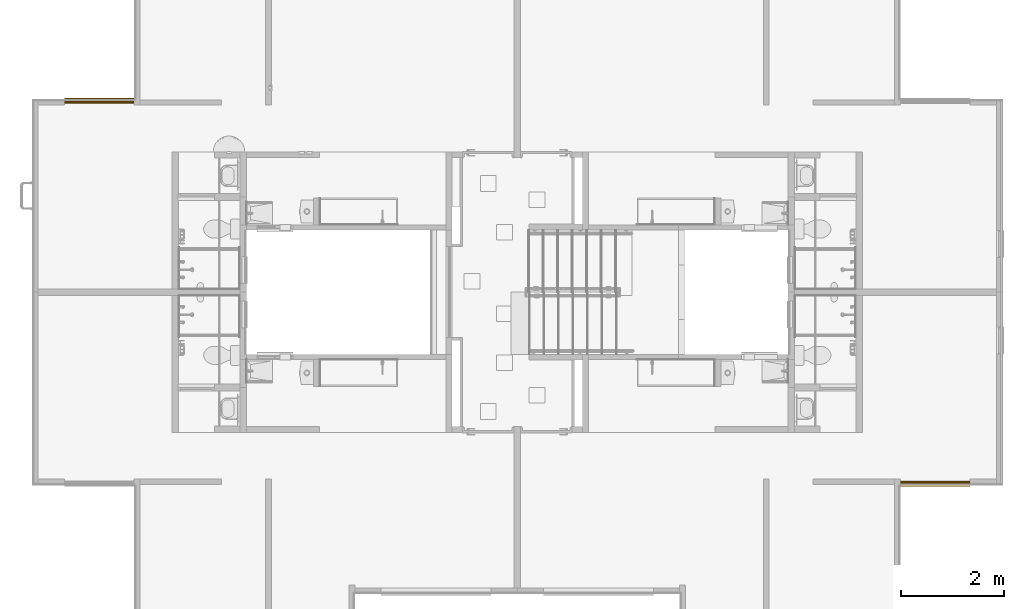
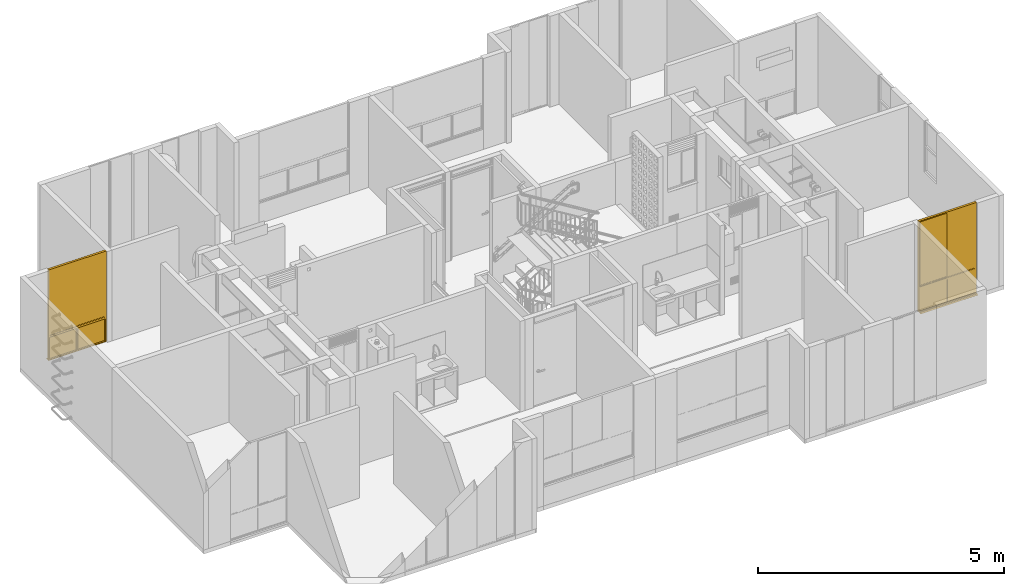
# One storey, part 37 of 51: 2 windows.
"""IFC4 building model written with IfcOpenShell, lengths in metres."""

from ifc_helpers import new_model, entity, si_unit, converted_unit, derived_unit, direction, frame, origin, place, context, subcontext, project, spatial, polygons, source, transform, mapped, material, constituent, constituent_set, type_object, type_shapes, element, save


model = new_model("IFC4")

# Units and contexts
model_context = context("Model", 3, precision=1e-05, world=origin(), true_north=direction((6.123031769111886e-17, 1.0)))
body_context = subcontext(model_context, "Body", "Model", "MODEL_VIEW")
ifc_project = project(units=[si_unit("LENGTHUNIT", "METRE"), si_unit("AREAUNIT", "SQUARE_METRE"), si_unit("VOLUMEUNIT", "CUBIC_METRE"), converted_unit("PLANEANGLEUNIT", "DEGREE", entity("IfcRatioMeasure", 0.017453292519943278), si_unit("PLANEANGLEUNIT", "RADIAN"), dimensions=[0, 0, 0, 0, 0, 0, 0]), si_unit("MASSUNIT", "GRAM", prefix="KILO"), derived_unit("MASSDENSITYUNIT", [(si_unit("MASSUNIT", "GRAM", prefix="KILO"), 1), (si_unit("LENGTHUNIT", "METRE"), -3)]), derived_unit("IONCONCENTRATIONUNIT", [(si_unit("MASSUNIT", "GRAM", prefix="KILO"), 1), (si_unit("LENGTHUNIT", "METRE"), -3)]), derived_unit("MOMENTOFINERTIAUNIT", [(si_unit("LENGTHUNIT", "METRE"), 4)]), si_unit("TIMEUNIT", "SECOND"), si_unit("FREQUENCYUNIT", "HERTZ"), si_unit("THERMODYNAMICTEMPERATUREUNIT", "DEGREE_CELSIUS"), derived_unit("THERMALTRANSMITTANCEUNIT", [(si_unit("MASSUNIT", "GRAM", prefix="KILO"), 1), (si_unit("THERMODYNAMICTEMPERATUREUNIT", "KELVIN"), -1), (si_unit("TIMEUNIT", "SECOND"), -3)]), derived_unit("THERMALCONDUCTANCEUNIT", [(si_unit("MASSUNIT", "GRAM", prefix="KILO"), 1), (si_unit("THERMODYNAMICTEMPERATUREUNIT", "KELVIN"), -1), (si_unit("TIMEUNIT", "SECOND"), -3), (si_unit("LENGTHUNIT", "METRE"), 1)]), derived_unit("VOLUMETRICFLOWRATEUNIT", [(si_unit("LENGTHUNIT", "METRE"), 3), (si_unit("TIMEUNIT", "SECOND"), -1)]), derived_unit("MASSFLOWRATEUNIT", [(si_unit("MASSUNIT", "GRAM", prefix="KILO"), 1), (si_unit("TIMEUNIT", "SECOND"), -1)]), derived_unit("ROTATIONALFREQUENCYUNIT", [(si_unit("TIMEUNIT", "SECOND"), -1)]), si_unit("ELECTRICCURRENTUNIT", "AMPERE"), si_unit("ELECTRICVOLTAGEUNIT", "VOLT"), si_unit("POWERUNIT", "WATT"), si_unit("FORCEUNIT", "NEWTON", prefix="KILO"), si_unit("ILLUMINANCEUNIT", "LUX"), si_unit("LUMINOUSFLUXUNIT", "LUMEN"), si_unit("LUMINOUSINTENSITYUNIT", "CANDELA"), derived_unit("USERDEFINED", [(si_unit("MASSUNIT", "GRAM", prefix="KILO"), -1), (si_unit("LENGTHUNIT", "METRE"), -2), (si_unit("TIMEUNIT", "SECOND"), 3), (si_unit("LUMINOUSFLUXUNIT", "LUMEN"), 1)]), derived_unit("USERDEFINED", [(si_unit("MASSUNIT", "GRAM", prefix="KILO"), 1), (si_unit("TIMEUNIT", "SECOND"), -3), (si_unit("LENGTHUNIT", "METRE"), 3), (si_unit("ELECTRICCURRENTUNIT", "AMPERE"), -2)]), derived_unit("SOUNDPOWERUNIT", [(si_unit("MASSUNIT", "GRAM", prefix="KILO"), 1), (si_unit("TIMEUNIT", "SECOND"), -3), (si_unit("LENGTHUNIT", "METRE"), 2)]), derived_unit("SOUNDPRESSUREUNIT", [(si_unit("MASSUNIT", "GRAM", prefix="KILO"), 1), (si_unit("LENGTHUNIT", "METRE"), -1), (si_unit("TIMEUNIT", "SECOND"), -2)]), derived_unit("LINEARVELOCITYUNIT", [(si_unit("LENGTHUNIT", "METRE"), 1), (si_unit("TIMEUNIT", "SECOND"), -1)]), si_unit("PRESSUREUNIT", "PASCAL"), derived_unit("USERDEFINED", [(si_unit("MASSUNIT", "GRAM", prefix="KILO"), 1), (si_unit("LENGTHUNIT", "METRE"), -2), (si_unit("TIMEUNIT", "SECOND"), -2)]), derived_unit("LINEARFORCEUNIT", [(si_unit("MASSUNIT", "GRAM", prefix="KILO"), 1), (si_unit("TIMEUNIT", "SECOND"), -2)]), derived_unit("PLANARFORCEUNIT", [(si_unit("MASSUNIT", "GRAM", prefix="KILO"), 1), (si_unit("LENGTHUNIT", "METRE"), -1), (si_unit("TIMEUNIT", "SECOND"), -2)]), derived_unit("SPECIFICHEATCAPACITYUNIT", [(si_unit("THERMODYNAMICTEMPERATUREUNIT", "KELVIN"), -1), (si_unit("LENGTHUNIT", "METRE"), 2), (si_unit("TIMEUNIT", "SECOND"), -2)]), derived_unit("HEATINGVALUEUNIT", [(si_unit("LENGTHUNIT", "METRE"), 2), (si_unit("TIMEUNIT", "SECOND"), -2)]), derived_unit("VAPORPERMEABILITYUNIT", [(si_unit("LENGTHUNIT", "METRE"), -1), (si_unit("TIMEUNIT", "SECOND"), 1)]), derived_unit("DYNAMICVISCOSITYUNIT", [(si_unit("MASSUNIT", "GRAM", prefix="KILO"), 1), (si_unit("TIMEUNIT", "SECOND"), -1), (si_unit("LENGTHUNIT", "METRE"), -1)]), derived_unit("THERMALEXPANSIONCOEFFICIENTUNIT", [(si_unit("THERMODYNAMICTEMPERATUREUNIT", "KELVIN"), -1)]), derived_unit("MODULUSOFELASTICITYUNIT", [(si_unit("MASSUNIT", "GRAM", prefix="KILO"), 1), (si_unit("LENGTHUNIT", "METRE"), -1), (si_unit("TIMEUNIT", "SECOND"), -2)]), derived_unit("ISOTHERMALMOISTURECAPACITYUNIT", [(si_unit("LENGTHUNIT", "METRE"), 3), (si_unit("MASSUNIT", "GRAM", prefix="KILO"), -1)]), derived_unit("MOISTUREDIFFUSIVITYUNIT", [(si_unit("TIMEUNIT", "SECOND"), -1), (si_unit("LENGTHUNIT", "METRE"), 2)])], contexts=[model_context])

# Site, building, storey
site_placement = place(None, origin())
site = spatial("IfcSite", under=ifc_project, at=site_placement, Name="Default", CompositionType="ELEMENT")
building_placement = place(site_placement, origin())
building = spatial("IfcBuilding", under=site, at=building_placement, CompositionType="ELEMENT")
storey_placement = place(building_placement, frame((0.0, 0.0, 2.350000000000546)))
storey = spatial("IfcBuildingStorey", under=building, at=storey_placement, Name="Nivel 2", CompositionType="ELEMENT", Elevation=2.350000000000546)

# Windows
ifc_material_1 = material(Name="Vidrio", Category="Materials")
ifc_constituent_1 = constituent(ifc_material_1, Name="Vidrio", Category="Materials")
ifc_material_2 = material(Name="Aluminio", Category="Materials")
ifc_constituent_2 = constituent(ifc_material_2, Name="Aluminio", Category="Materials")
ifc_material_3 = material(Name="<Unnamed>")
ifc_constituent_3 = constituent(ifc_material_3, Name="<Unnamed>")
ifc_constituent_set_1 = constituent_set(constituents=[ifc_constituent_1, ifc_constituent_2, ifc_constituent_3])
ifc_constituent_4 = constituent(ifc_material_1, Name="Vidrio", Category="Materials")
ifc_constituent_5 = constituent(ifc_material_2, Name="Aluminio", Category="Materials")
ifc_constituent_6 = constituent(ifc_material_3, Name="<Unnamed>")
ifc_constituent_set_2 = constituent_set(constituents=[ifc_constituent_4, ifc_constituent_5, ifc_constituent_6])
window_type = type_object("IfcWindowType", Name="B2020 - Ventana corrediza - Aluminio + Vidrio:B2020 - 1.35m x 2.25m - Ventana corrediza 2C - Aluminio + Vidrio", PartitioningType="NOTDEFINED", PredefinedType="WINDOW", material=ifc_constituent_set_2)
shared_shape = source(origin(), body_context, "Body", "Tessellation", [
    polygons([(0.020000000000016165, 0.044249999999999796, 2.2300000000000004), (0.020000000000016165, 0.044249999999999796, 0.6174999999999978), (0.6750000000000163, 0.04424999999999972, 0.6174999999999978), (0.6750000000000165, 0.04424999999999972, 2.2300000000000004), (0.6750000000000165, 0.04824999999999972, 2.2300000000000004), (0.020000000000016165, 0.04824999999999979, 2.2300000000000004), (0.6750000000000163, 0.04824999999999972, 0.6174999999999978), (0.020000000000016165, 0.04824999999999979, 0.6174999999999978)], [[[1, 2, 3, 4]], [[4, 5, 6, 1]], [[3, 7, 5, 4]], [[1, 6, 8, 2]], [[6, 5, 7, 8]], [[2, 8, 7, 3]]], closed=True),
    polygons([(1.3300000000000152, 0.04424999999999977, 2.2300000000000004), (0.6700000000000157, 0.044249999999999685, 2.2300000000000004), (0.6700000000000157, 0.044249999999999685, 0.6174999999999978), (1.3300000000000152, 0.04424999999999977, 0.6174999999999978), (1.3300000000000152, 0.048249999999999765, 0.6174999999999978), (1.3300000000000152, 0.048249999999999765, 2.2300000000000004), (0.6700000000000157, 0.04824999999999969, 2.2300000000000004), (0.6700000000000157, 0.04824999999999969, 0.6174999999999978)], [[[1, 2, 3, 4]], [[4, 5, 6, 1]], [[2, 7, 8, 3]], [[1, 6, 7, 2]], [[6, 5, 8, 7]], [[3, 8, 5, 4]]], closed=True),
    polygons([(0.6700000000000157, 0.048249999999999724, 0.6174999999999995), (0.6700000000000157, 0.048249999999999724, 2.230000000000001), (0.6700000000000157, 0.044249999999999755, 2.230000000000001), (0.6700000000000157, 0.044249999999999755, 0.6174999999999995), (1.3300000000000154, 0.04424999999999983, 2.230000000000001), (1.3300000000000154, 0.04424999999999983, 0.6174999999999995), (0.685000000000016, 0.044249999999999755, 2.2150000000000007), (0.685000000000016, 0.044249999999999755, 0.6324999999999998), (1.315000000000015, 0.04424999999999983, 0.6324999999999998), (1.315000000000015, 0.04424999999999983, 2.2150000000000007), (1.3300000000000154, 0.0482499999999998, 2.230000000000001), (1.3300000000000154, 0.0482499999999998, 0.6174999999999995), (0.685000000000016, 0.048249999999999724, 0.6324999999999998), (0.685000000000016, 0.048249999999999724, 2.2150000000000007), (1.315000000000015, 0.04824999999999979, 2.2150000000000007), (1.315000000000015, 0.04824999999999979, 0.6324999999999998), (0.685000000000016, 0.05299999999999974, 0.6324999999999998), (0.685000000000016, 0.05299999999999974, 2.2150000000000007), (1.315000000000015, 0.05299999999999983, 2.2150000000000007), (1.315000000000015, 0.05299999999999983, 0.6324999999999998), (0.6650000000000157, 0.05299999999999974, 0.6124999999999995), (0.6650000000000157, 0.05299999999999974, 2.2350000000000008), (1.3350000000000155, 0.05299999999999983, 2.2350000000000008), (1.3350000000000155, 0.05299999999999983, 0.6124999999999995), (0.6650000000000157, 0.03949999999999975, 0.6124999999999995), (0.6650000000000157, 0.03949999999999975, 2.2350000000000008), (1.3350000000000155, 0.03949999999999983, 2.2350000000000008), (1.3350000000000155, 0.03949999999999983, 0.6124999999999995), (0.685000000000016, 0.03949999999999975, 0.6324999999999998), (0.685000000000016, 0.03949999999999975, 2.2150000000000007), (1.315000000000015, 0.03949999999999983, 2.2150000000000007), (1.315000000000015, 0.03949999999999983, 0.6324999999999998)], [[[1, 2, 3, 4]], [[4, 3, 5, 6], [7, 8, 9, 10]], [[2, 11, 5, 3]], [[2, 1, 12, 11], [13, 14, 15, 16]], [[17, 18, 14, 13]], [[18, 19, 15, 14]], [[21, 22, 23, 24], [18, 17, 20, 19]], [[25, 26, 22, 21]], [[26, 27, 23, 22]], [[26, 25, 28, 27], [29, 30, 31, 32]], [[8, 7, 30, 29]], [[7, 10, 31, 30]], [[11, 12, 6, 5]], [[19, 20, 16, 15]], [[27, 28, 24, 23]], [[10, 9, 32, 31]], [[12, 1, 4, 6]], [[20, 17, 13, 16]], [[28, 25, 21, 24]], [[9, 8, 29, 32]]], closed=True),
    polygons([(0.6800000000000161, 0.06674999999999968, 2.229999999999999), (0.02000000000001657, 0.06674999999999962, 2.229999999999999), (0.02000000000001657, 0.06674999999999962, 0.6174999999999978), (0.6800000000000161, 0.06674999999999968, 0.6174999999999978), (0.6800000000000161, 0.07074999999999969, 0.6174999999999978), (0.6800000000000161, 0.07074999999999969, 2.229999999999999), (0.02000000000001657, 0.0707499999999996, 2.229999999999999), (0.02000000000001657, 0.0707499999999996, 0.6174999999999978)], [[[1, 2, 3, 4]], [[4, 5, 6, 1]], [[2, 7, 8, 3]], [[1, 6, 7, 2]], [[6, 5, 8, 7]], [[3, 8, 5, 4]]], closed=True),
    polygons([(0.020000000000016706, 0.07074999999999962, 0.6175), (0.020000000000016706, 0.07074999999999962, 2.2299999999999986), (0.020000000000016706, 0.06674999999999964, 2.2299999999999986), (0.020000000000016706, 0.06674999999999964, 0.6175), (0.6800000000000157, 0.06674999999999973, 2.2299999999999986), (0.6800000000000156, 0.06674999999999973, 0.6175000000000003), (0.035000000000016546, 0.06674999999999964, 2.214999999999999), (0.035000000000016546, 0.06674999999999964, 0.6324999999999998), (0.6650000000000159, 0.06674999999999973, 0.6324999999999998), (0.6650000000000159, 0.06674999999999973, 2.214999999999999), (0.6800000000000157, 0.0707499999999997, 2.2299999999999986), (0.6800000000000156, 0.0707499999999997, 0.6175), (0.035000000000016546, 0.07074999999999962, 0.6324999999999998), (0.035000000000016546, 0.07074999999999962, 2.214999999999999), (0.6650000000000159, 0.0707499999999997, 2.214999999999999), (0.6650000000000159, 0.0707499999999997, 0.6324999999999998), (0.035000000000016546, 0.07549999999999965, 0.6324999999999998), (0.035000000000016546, 0.07549999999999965, 2.214999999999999), (0.6650000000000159, 0.07549999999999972, 2.214999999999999), (0.6650000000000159, 0.07549999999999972, 0.6324999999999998), (0.015000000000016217, 0.07549999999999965, 0.6124999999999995), (0.015000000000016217, 0.07549999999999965, 2.2349999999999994), (0.6850000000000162, 0.07549999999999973, 2.2349999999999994), (0.685000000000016, 0.07549999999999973, 0.6124999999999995), (0.015000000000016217, 0.06199999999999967, 0.6124999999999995), (0.015000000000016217, 0.06199999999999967, 2.2349999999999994), (0.6850000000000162, 0.06199999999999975, 2.2349999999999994), (0.685000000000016, 0.06199999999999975, 0.6124999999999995), (0.035000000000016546, 0.06199999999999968, 0.6324999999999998), (0.035000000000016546, 0.06199999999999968, 2.214999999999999), (0.6650000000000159, 0.06199999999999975, 2.214999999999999), (0.6650000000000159, 0.06199999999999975, 0.6324999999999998)], [[[1, 2, 3, 4]], [[4, 3, 5, 6], [7, 8, 9, 10]], [[2, 11, 5, 3]], [[2, 1, 12, 11], [13, 14, 15, 16]], [[17, 18, 14, 13]], [[18, 19, 15, 14]], [[21, 22, 23, 24], [18, 17, 20, 19]], [[25, 26, 22, 21]], [[26, 27, 23, 22]], [[26, 25, 28, 27], [29, 30, 31, 32]], [[8, 7, 30, 29]], [[7, 10, 31, 30]], [[11, 12, 6, 5]], [[19, 20, 16, 15]], [[27, 28, 24, 23]], [[10, 9, 32, 31]], [[12, 1, 4, 6]], [[20, 17, 13, 16]], [[28, 25, 21, 24]], [[9, 8, 29, 32]]], closed=True),
    polygons([(0.025000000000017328, 0.037499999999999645, 2.224999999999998), (1.3250000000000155, 0.037499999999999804, 2.2249999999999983), (1.3250000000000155, 0.03249999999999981, 2.2249999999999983), (0.025000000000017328, 0.03249999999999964, 2.224999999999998), (1.325000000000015, 0.037499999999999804, 0.6200000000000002), (1.3250000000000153, 0.03249999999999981, 0.6200000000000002), (0.025000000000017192, 0.03249999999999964, 0.6200000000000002), (1.3500000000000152, 0.03249999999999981, 0.595), (1.3500000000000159, 0.03249999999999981, 2.2499999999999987), (1.6919798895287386e-14, 0.03249999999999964, 2.2499999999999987), (1.6919798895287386e-14, 0.03249999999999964, 0.595), (0.025000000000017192, 0.037499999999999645, 0.6200000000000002), (1.345000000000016, 0.037499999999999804, 2.2449999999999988), (1.3450000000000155, 0.037499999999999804, 0.5999999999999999), (0.005000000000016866, 0.037499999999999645, 0.5999999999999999), (0.005000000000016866, 0.037499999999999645, 2.2449999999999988), (0.005000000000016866, 0.054999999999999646, 2.2449999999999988), (1.345000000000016, 0.05499999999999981, 2.2449999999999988), (1.3450000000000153, 0.05499999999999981, 0.5999999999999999), (0.005000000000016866, 0.054999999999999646, 0.5999999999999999), (1.3250000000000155, 0.054999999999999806, 2.2249999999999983), (1.3250000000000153, 0.054999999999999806, 0.6200000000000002), (0.025000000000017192, 0.05499999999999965, 0.6200000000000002), (0.025000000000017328, 0.05499999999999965, 2.2249999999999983), (0.025000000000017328, 0.05999999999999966, 2.224999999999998), (1.3250000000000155, 0.05999999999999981, 2.2249999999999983), (1.325000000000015, 0.05999999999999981, 0.6200000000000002), (0.025000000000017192, 0.05999999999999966, 0.6200000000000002), (1.345000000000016, 0.05999999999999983, 2.2449999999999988), (1.3450000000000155, 0.05999999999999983, 0.5999999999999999), (0.005000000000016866, 0.05999999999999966, 0.5999999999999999), (0.005000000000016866, 0.05999999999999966, 2.2449999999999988), (0.005000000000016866, 0.07749999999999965, 2.2449999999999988), (1.345000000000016, 0.07749999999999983, 2.2449999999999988), (1.3450000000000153, 0.07749999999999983, 0.5999999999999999), (0.005000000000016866, 0.07749999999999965, 0.5999999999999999), (1.3250000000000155, 0.07749999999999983, 2.2249999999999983), (1.3250000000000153, 0.07749999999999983, 0.6200000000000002), (0.025000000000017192, 0.07749999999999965, 0.6200000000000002), (0.025000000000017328, 0.07749999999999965, 2.2249999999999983), (0.025000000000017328, 0.08249999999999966, 2.224999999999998), (1.3250000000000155, 0.08249999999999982, 2.2249999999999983), (1.325000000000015, 0.08249999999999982, 0.6200000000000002), (0.025000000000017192, 0.08249999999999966, 0.6200000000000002), (1.3500000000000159, 0.08249999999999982, 2.2499999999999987), (1.3500000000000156, 0.08249999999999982, 0.595), (1.6919798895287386e-14, 0.08249999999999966, 0.595), (1.6919798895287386e-14, 0.08249999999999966, 2.2499999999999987)], [[[1, 2, 3, 4]], [[2, 5, 6, 3]], [[8, 9, 10, 11], [3, 6, 7, 4]], [[13, 14, 15, 16], [5, 2, 1, 12]], [[17, 18, 13, 16]], [[18, 19, 14, 13]], [[19, 18, 17, 20], [21, 22, 23, 24]], [[25, 26, 21, 24]], [[26, 27, 22, 21]], [[29, 30, 31, 32], [27, 26, 25, 28]], [[33, 34, 29, 32]], [[34, 35, 30, 29]], [[35, 34, 33, 36], [37, 38, 39, 40]], [[41, 42, 37, 40]], [[42, 43, 38, 37]], [[45, 46, 47, 48], [43, 42, 41, 44]], [[10, 9, 45, 48]], [[9, 8, 46, 45]], [[12, 1, 4, 7]], [[20, 17, 16, 15]], [[28, 25, 24, 23]], [[36, 33, 32, 31]], [[44, 41, 40, 39]], [[11, 10, 48, 47]], [[5, 12, 7, 6]], [[19, 20, 15, 14]], [[27, 28, 23, 22]], [[35, 36, 31, 30]], [[43, 44, 39, 38]], [[8, 11, 47, 46]]], closed=True),
    polygons([(1.330000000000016, 0.08250000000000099, 0.5749999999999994), (1.330000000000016, 0.08250000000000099, 0.020000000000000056), (1.330000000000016, 0.0324999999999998, 0.020000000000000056), (1.330000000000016, 0.03249999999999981, 0.5749999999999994), (0.6850000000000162, 0.08250000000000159, 0.01999999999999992), (0.6850000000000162, 0.03250000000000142, 0.01999999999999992), (1.3500000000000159, 0.03250000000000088, 0.5949999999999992), (1.3500000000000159, 0.03250000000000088, 2.707167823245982e-16), (1.3500000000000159, 0.08249999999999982, 2.707167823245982e-16), (1.3500000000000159, 0.08249999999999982, 0.5949999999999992), (1.624300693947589e-14, 0.03250000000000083, 2.707167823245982e-16), (1.624300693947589e-14, 0.08249999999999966, 2.707167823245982e-16), (0.020000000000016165, 0.08250000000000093, 0.020000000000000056), (0.020000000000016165, 0.08250000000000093, 0.5749999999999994), (0.02000000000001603, 0.03249999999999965, 0.5749999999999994), (0.02000000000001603, 0.03249999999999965, 0.020000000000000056), (1.624300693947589e-14, 0.03250000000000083, 0.5949999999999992), (1.624300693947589e-14, 0.08249999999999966, 0.5949999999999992), (0.6650000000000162, 0.08250000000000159, 0.5749999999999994), (0.6650000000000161, 0.03250000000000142, 0.5749999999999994), (0.6650000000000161, 0.08250000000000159, 0.01999999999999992), (0.6650000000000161, 0.03250000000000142, 0.01999999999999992), (0.6850000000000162, 0.03250000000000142, 0.5749999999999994), (0.6850000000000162, 0.08250000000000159, 0.5749999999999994)], [[[1, 2, 3, 4]], [[2, 5, 6, 3]], [[7, 8, 9, 10]], [[8, 11, 12, 9]], [[13, 14, 15, 16]], [[11, 17, 18, 12]], [[14, 19, 20, 15]], [[10, 18, 17, 7]], [[21, 22, 20, 19]], [[7, 17, 11, 8], [22, 16, 15, 20], [23, 4, 3, 6]], [[24, 23, 6, 5]], [[9, 12, 18, 10], [5, 2, 1, 24], [19, 14, 13, 21]], [[4, 23, 24, 1]], [[16, 22, 21, 13]]], closed=True),
    polygons([(0.6650000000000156, 0.07213901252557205, 0.019999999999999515), (0.6650000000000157, 0.06813901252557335, 0.019999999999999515), (0.020000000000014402, 0.06813901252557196, 0.019999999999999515), (0.020000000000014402, 0.07213901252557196, 0.019999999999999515), (0.6650000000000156, 0.07213901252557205, 0.5849999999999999), (0.020000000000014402, 0.07213901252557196, 0.5849999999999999), (0.020000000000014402, 0.06813901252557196, 0.5849999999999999), (0.6650000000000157, 0.06813901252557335, 0.5849999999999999)], [[[1, 2, 3, 4]], [[5, 1, 4, 6]], [[6, 4, 3, 7]], [[7, 3, 2, 8]], [[8, 2, 1, 5]], [[5, 6, 7, 8]]], closed=True),
    polygons([(0.6850000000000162, 0.07213901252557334, 0.019999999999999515), (1.3300000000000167, 0.07213901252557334, 0.019999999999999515), (1.3300000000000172, 0.06813901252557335, 0.019999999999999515), (0.6850000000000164, 0.06813901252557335, 0.019999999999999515), (0.6850000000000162, 0.07213901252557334, 0.5849999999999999), (0.6850000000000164, 0.06813901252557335, 0.5849999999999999), (1.3300000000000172, 0.06813901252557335, 0.5849999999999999), (1.3300000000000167, 0.07213901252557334, 0.5849999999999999)], [[[1, 2, 3, 4]], [[5, 1, 4, 6]], [[6, 4, 3, 7]], [[7, 3, 2, 8]], [[8, 2, 1, 5]], [[5, 6, 7, 8]]], closed=True),
    polygons([(1.350000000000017, 0.11499999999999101, -4.060751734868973e-16), (1.350000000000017, 0.14098076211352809, -0.015000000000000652), (1.350000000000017, 0.14348076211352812, -0.010669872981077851), (1.350000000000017, 0.11633974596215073, 0.0049999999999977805), (1.350000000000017, 0.08249999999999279, 0.0049999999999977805), (1.350000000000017, 0.08249999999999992, -4.060751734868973e-16), (1.7461232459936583e-14, 0.11499999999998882, -4.060751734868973e-16), (1.7461232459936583e-14, 0.08249999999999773, -4.060751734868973e-16), (1.7461232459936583e-14, 0.08249999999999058, 0.0049999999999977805), (1.7461232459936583e-14, 0.11633974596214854, 0.0049999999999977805), (1.7325874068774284e-14, 0.14348076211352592, -0.010669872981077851), (1.7325874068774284e-14, 0.1409807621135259, -0.015000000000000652)], [[[1, 2, 3, 4, 5, 6]], [[7, 8, 9, 10, 11, 12]], [[6, 8, 7, 1]], [[5, 9, 8, 6]], [[4, 10, 9, 5]], [[3, 11, 10, 4]], [[2, 12, 11, 3]], [[1, 7, 12, 2]]], closed=True),
])
type_shapes(window_type, [shared_shape])
window_1_placement = place(storey_placement, frame((0.5674999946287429, -2.810000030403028, 0.0)))
element("IfcWindow", 1, at=window_1_placement, inside=storey, type_object=window_type, material=ifc_constituent_set_1, Name="B2020 - Ventana corrediza - Aluminio + Vidrio:B2020 - 1.35m x 2.25m - Ventana corrediza 2C - Aluminio + Vidrio", ObjectType="B2020 - Ventana corrediza - Aluminio + Vidrio:B2020 - 1.35m x 2.25m - Ventana corrediza 2C - Aluminio + Vidrio", OverallHeight=2.265, OverallWidth=1.3500000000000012, PartitioningType="NOTDEFINED", PredefinedType="WINDOW", context=body_context, shape_type="MappedRepresentation", body=[
    mapped(shared_shape, transform((0.0, 0.0, 0.0), scale=1.0)),
])
ifc_constituent_7 = constituent(ifc_material_1, Name="Vidrio", Category="Materials")
ifc_constituent_8 = constituent(ifc_material_2, Name="Aluminio", Category="Materials")
ifc_constituent_9 = constituent(ifc_material_3, Name="<Unnamed>")
ifc_constituent_set_3 = constituent_set(constituents=[ifc_constituent_7, ifc_constituent_8, ifc_constituent_9])
window_2_placement = place(storey_placement, frame((18.077500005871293, -10.040000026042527, 0.0), z_axis=(0.0, 0.0, 1.0), x_axis=(-1.0, 0.0, 0.0)))
element("IfcWindow", 2, at=window_2_placement, inside=storey, type_object=window_type, material=ifc_constituent_set_3, Name="B2020 - Ventana corrediza - Aluminio + Vidrio:B2020 - 1.35m x 2.25m - Ventana corrediza 2C - Aluminio + Vidrio", ObjectType="B2020 - Ventana corrediza - Aluminio + Vidrio:B2020 - 1.35m x 2.25m - Ventana corrediza 2C - Aluminio + Vidrio", OverallHeight=2.265, OverallWidth=1.3500000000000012, PartitioningType="NOTDEFINED", PredefinedType="WINDOW", context=body_context, shape_type="MappedRepresentation", body=[
    mapped(shared_shape, transform((0.0, 0.0, 0.0), scale=1.0)),
])

save(model, "model.ifc")
